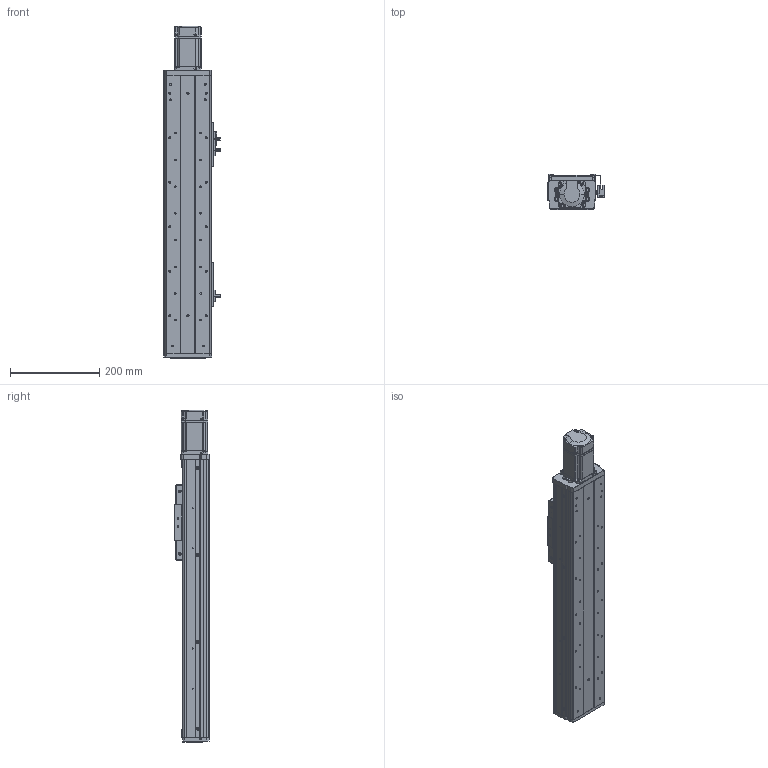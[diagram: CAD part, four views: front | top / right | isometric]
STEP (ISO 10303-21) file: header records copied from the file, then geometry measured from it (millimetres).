
FILE_DESCRIPTION (( 'STEP AP203' ), '1' );
FILE_NAME ('RY100FS-300-MK(15双轨).SLDASM_350.step', '2021-03-02T05:50:40', ( '盈信电脑' ), ( '东莞市道滘镇水果街19号' ), 'SwSTEP 2.0', 'SolidWorks 2012', '' );
FILE_SCHEMA (( 'CONFIG_CONTROL_DESIGN' ));
Products named in the file (20): 滅袉蝶14-24; RY100FS-300-MK(15邧寢).SLDASM_350; 滅袉蝶14-35; RY100FS-双轨螺母座(16丝杆）; 覜茼ん672; RY100F-詩湍揤踡輸; RY100FS-15絳寢萇儂假蚾啣(200W PCD70 M4); RY80俋离覜茼え; RY100F-綴裔啣; 672嫖萇羲壽假蚾釱; 侂狟200W萇儂; 棠沺沭; RY100F-詩湍揤踡謫; 1; RY100F-詩湍幗謫粣; RY100FS-双轨铝滑块(上板）; RY100F-滅鳥裔啣; RY100FS-300-MK15絳寢倰第奻裔啣_350; RY100FS-300-MK15邧寢祥凄詩湍_350; RY100FS-300-MK15絳寢倰第菁釱_350
Assembly tree (27 placements, depth 3):
  RY100FS-300-MK(15邧寢).SLDASM_350
    RY100FS-300-MK15絳寢倰第菁釱_350
    RY100FS-300-MK15絳寢倰第奻裔啣_350  x2
    RY100FS-300-MK15邧寢祥凄詩湍_350
    RY100FS-双轨铝滑块(上板）
    RY100F-滅鳥裔啣
    棠沺沭  x2
    RY100F-詩湍幗謫粣
    RY100F-詩湍揤踡謫  x2
    侂狟200W萇儂
      1
    RY100F-綴裔啣
    672嫖萇羲壽假蚾釱  x2
    RY80俋离覜茼え  x2
    覜茼ん672  x3
    RY100F-詩湍揤踡輸  x2
    RY100FS-15絳寢萇儂假蚾啣(200W PCD70 M4)
    RY100FS-双轨螺母座(16丝杆）
    滅袉蝶14-24
    滅袉蝶14-35
Bounding box: 126.2 x 78.5 x 746 mm (x, y, z)
Volume: 1799000.5 mm3; surface area: 698300.4 mm2
Topology: 26 solids, 26 shells, 1960 faces, 5313 edges, 3451 vertices
Faces by surface type: plane 961, cylinder 838, cone 136, bspline 25
Entity records: 54967 total; most frequent: CARTESIAN_POINT 11025, DIRECTION 8754, ORIENTED_EDGE 8606, EDGE_CURVE 4303, AXIS2_PLACEMENT_3D 3066, VERTEX_POINT 2831, LINE 2622, VECTOR 2622
